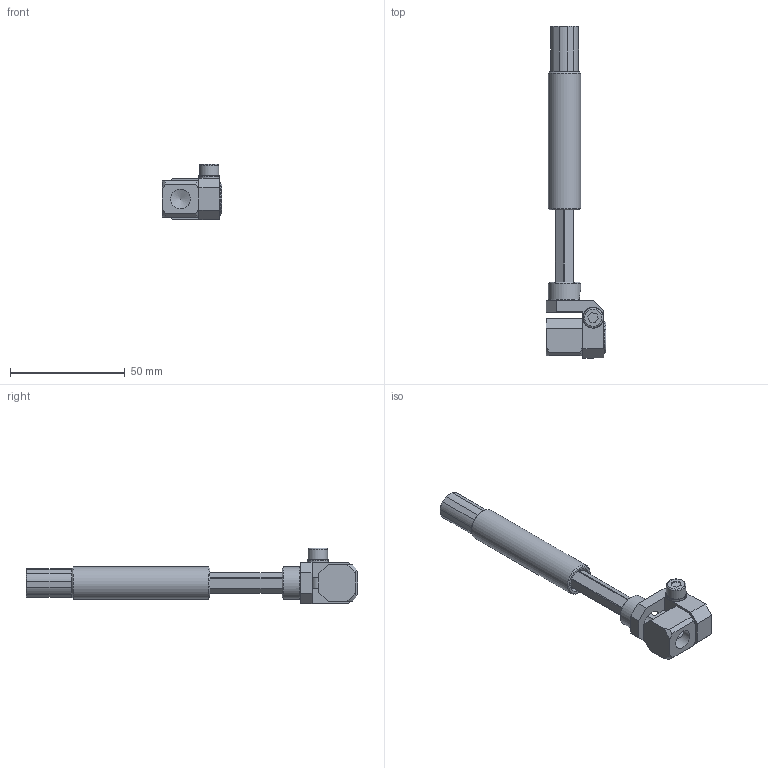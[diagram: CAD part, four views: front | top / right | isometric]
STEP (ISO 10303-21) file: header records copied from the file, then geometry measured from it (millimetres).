
FILE_DESCRIPTION(('STEP AP214'),'1');
FILE_NAME('CA.SSN.14351818.stp','2016-08-11T11:58:52',(' '),(' '),'Spatial InterOp 3D',' ',' ');
FILE_SCHEMA(('automotive_design'));
Length unit declared in the file: millimetre
Products named in the file (11): VSN.1435.2.1; VSN.1435.3; GGB.14.18.18; SSN.14201818.1; R.5.SCH; V-tcei M  5 x 18; M.8.5X48.50; VSN.14.1; VSN.1435.1.1; VSN.1435.1.2
Assembly tree (10 placements, depth 2):
  (unnamed)
    VSN.1435.2.1
    VSN.1435.3
    GGB.14.18.18
    SSN.14201818.1
    R.5.SCH
    V-tcei M  5 x 18
    M.8.5X48.50
    VSN.14.1
    VSN.1435.1.1
    VSN.1435.1.2
Bounding box: 26 x 144.5 x 24.1 mm (x, y, z)
Volume: 18117.1 mm3; surface area: 18115.2 mm2
Topology: 9 solids, 10 shells, 350 faces, 964 edges, 635 vertices
Faces by surface type: plane 268, cylinder 48, cone 24, torus 9, bspline 1
Full cylindrical faces by diameter (mm): 3.5 x1, 4.2 x2, 4.5 x1, 5 x5, 5.2 x1, 5.3 x1, 6 x3, 7 x3, 7.2 x1, 8.5 x1, 8.566 x3, 9 x1, 9.5 x1, 10 x1, 11 x2, 13.95 x2, 14 x2
Entity records: 18444 total; most frequent: CARTESIAN_POINT 6667, DIRECTION 1860, ORIENTED_EDGE 1758, EDGE_CURVE 879, AXIS2_PLACEMENT_3D 666, VERTEX_POINT 612, LINE 528, VECTOR 528
